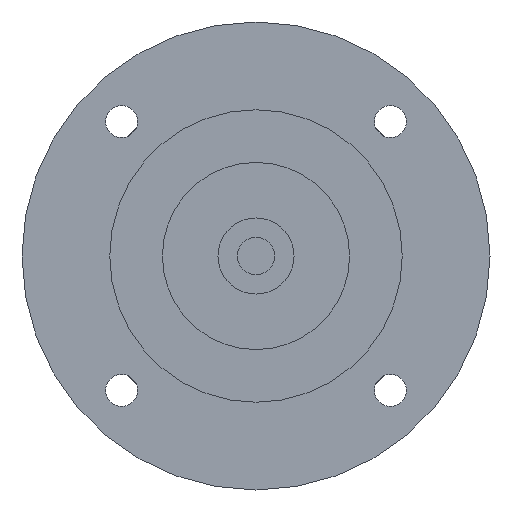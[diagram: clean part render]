
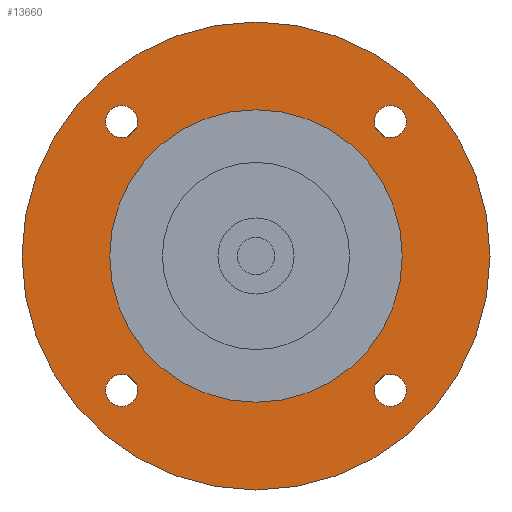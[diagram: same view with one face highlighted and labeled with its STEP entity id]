
A CAD part, left-side view. The second image highlights one B-rep face of the part: STEP entity #13660.
In plain terms, the highlighted planar face has unit normal (-1, 0, 0) as drawn and (0, 0, -1) by its records, which use the part's own axes.
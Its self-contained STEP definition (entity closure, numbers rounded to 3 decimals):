
#9680=CARTESIAN_POINT('',(0.,0.,-35.
));
#9690=DIRECTION('',(0.,0.,-1.));
#9700=DIRECTION('',(0.,-1.,0.));
#9710=AXIS2_PLACEMENT_3D('',#9680,#9690,#9700);
#9720=CIRCLE('',#9710,40.);
#9730=CARTESIAN_POINT('',(0.,-40.,-35.));
#9740=VERTEX_POINT('',#9730);
#9750=CARTESIAN_POINT('',(-40.,0.,-35.));
#9760=VERTEX_POINT('',#9750);
#9770=EDGE_CURVE('',#9740,#9760,#9720,.T.);
#9910=CARTESIAN_POINT('',(40.,0.,-35.));
#9920=VERTEX_POINT('',#9910);
#9950=EDGE_CURVE('',#9920,#9740,#9720,.T.);
#12610=CARTESIAN_POINT('',(25.,0.,-35.));
#12620=VERTEX_POINT('',#12610);
#12650=CARTESIAN_POINT('',(0.,0.,
-35.));
#12660=DIRECTION('',(0.,0.,1.));
#12670=DIRECTION('',(0.,1.,0.));
#12680=AXIS2_PLACEMENT_3D('',#12650,#12660,#12670);
#12690=CIRCLE('',#12680,25.);
#12700=CARTESIAN_POINT('',(0.,25.,-35.));
#12710=VERTEX_POINT('',#12700);
#12720=EDGE_CURVE('',#12620,#12710,#12690,.T.);
#12740=CARTESIAN_POINT('',(-25.,0.,-35.));
#12750=VERTEX_POINT('',#12740);
#12760=EDGE_CURVE('',#12710,#12750,#12690,.T.);
#12890=CARTESIAN_POINT('',(0.,0.,
-35.));
#12900=DIRECTION('',(0.,0.,-1.));
#12910=DIRECTION('',(1.,0.,0.));
#12920=AXIS2_PLACEMENT_3D('',#12890,#12900,#12910);
#12930=PLANE('',#12920);
#12940=CARTESIAN_POINT('',(22.981,-22.981,-35.));
#12950=DIRECTION('',(0.,0.,-1.));
#12960=DIRECTION('',(1.,0.,0.));
#12970=AXIS2_PLACEMENT_3D('',#12940,#12950,#12960);
#12980=CIRCLE('',#12970,2.75);
#12990=CARTESIAN_POINT('',(25.731,-22.981,-35.));
#13000=VERTEX_POINT('',#12990);
#13010=CARTESIAN_POINT('',(20.231,-22.981,-35.));
#13020=VERTEX_POINT('',#13010);
#13030=EDGE_CURVE('',#13000,#13020,#12980,.T.);
#13040=ORIENTED_EDGE('',*,*,#13030,.F.);
#13050=EDGE_CURVE('',#13020,#13000,#12980,.T.);
#13060=ORIENTED_EDGE('',*,*,#13050,.F.);
#13070=EDGE_LOOP('',(#13060,#13040));
#13080=FACE_BOUND('',#13070,.T.);
#13090=EDGE_CURVE('',#9760,#9920,#9720,.T.);
#13100=ORIENTED_EDGE('',*,*,#13090,.T.);
#13110=ORIENTED_EDGE('',*,*,#9770,.T.);
#13120=ORIENTED_EDGE('',*,*,#9950,.T.);
#13130=EDGE_LOOP('',(#13120,#13110,#13100));
#13140=FACE_OUTER_BOUND('',#13130,.T.);
#13150=CARTESIAN_POINT('',(22.981,22.981,-35.));
#13160=DIRECTION('',(0.,0.,-1.));
#13170=DIRECTION('',(0.,1.,0.));
#13180=AXIS2_PLACEMENT_3D('',#13150,#13160,#13170);
#13190=CIRCLE('',#13180,2.75);
#13200=CARTESIAN_POINT('',(22.981,25.731,-35.));
#13210=VERTEX_POINT('',#13200);
#13220=CARTESIAN_POINT('',(22.981,20.231,-35.));
#13230=VERTEX_POINT('',#13220);
#13240=EDGE_CURVE('',#13210,#13230,#13190,.T.);
#13250=ORIENTED_EDGE('',*,*,#13240,.F.);
#13260=EDGE_CURVE('',#13230,#13210,#13190,.T.);
#13270=ORIENTED_EDGE('',*,*,#13260,.F.);
#13280=EDGE_LOOP('',(#13270,#13250));
#13290=FACE_BOUND('',#13280,.T.);
#13300=CARTESIAN_POINT('',(-22.981,22.981,-35.));
#13310=DIRECTION('',(0.,0.,-1.));
#13320=DIRECTION('',(-1.,0.,0.));
#13330=AXIS2_PLACEMENT_3D('',#13300,#13310,#13320);
#13340=CIRCLE('',#13330,2.75);
#13350=CARTESIAN_POINT('',(-25.731,22.981,-35.));
#13360=VERTEX_POINT('',#13350);
#13370=CARTESIAN_POINT('',(-20.231,22.981,-35.));
#13380=VERTEX_POINT('',#13370);
#13390=EDGE_CURVE('',#13360,#13380,#13340,.T.);
#13400=ORIENTED_EDGE('',*,*,#13390,.F.);
#13410=EDGE_CURVE('',#13380,#13360,#13340,.T.);
#13420=ORIENTED_EDGE('',*,*,#13410,.F.);
#13430=EDGE_LOOP('',(#13420,#13400));
#13440=FACE_BOUND('',#13430,.T.);
#13450=CARTESIAN_POINT('',(-22.981,-22.981,-35.));
#13460=DIRECTION('',(0.,0.,-1.));
#13470=DIRECTION('',(0.,-1.,0.));
#13480=AXIS2_PLACEMENT_3D('',#13450,#13460,#13470);
#13490=CIRCLE('',#13480,2.75);
#13500=CARTESIAN_POINT('',(-22.981,-25.731,-35.));
#13510=VERTEX_POINT('',#13500);
#13520=CARTESIAN_POINT('',(-22.981,-20.231,-35.));
#13530=VERTEX_POINT('',#13520);
#13540=EDGE_CURVE('',#13510,#13530,#13490,.T.);
#13550=ORIENTED_EDGE('',*,*,#13540,.F.);
#13560=EDGE_CURVE('',#13530,#13510,#13490,.T.);
#13570=ORIENTED_EDGE('',*,*,#13560,.F.);
#13580=EDGE_LOOP('',(#13570,#13550));
#13590=FACE_BOUND('',#13580,.T.);
#13600=EDGE_CURVE('',#12750,#12620,#12690,.T.);
#13610=ORIENTED_EDGE('',*,*,#13600,.T.);
#13620=ORIENTED_EDGE('',*,*,#12760,.T.);
#13630=ORIENTED_EDGE('',*,*,#12720,.T.);
#13640=EDGE_LOOP('',(#13630,#13620,#13610));
#13650=FACE_BOUND('',#13640,.T.);
#13660=ADVANCED_FACE('',(#13080,#13140,#13290,#13440,#13590,#13650),
#12930,.T.);
